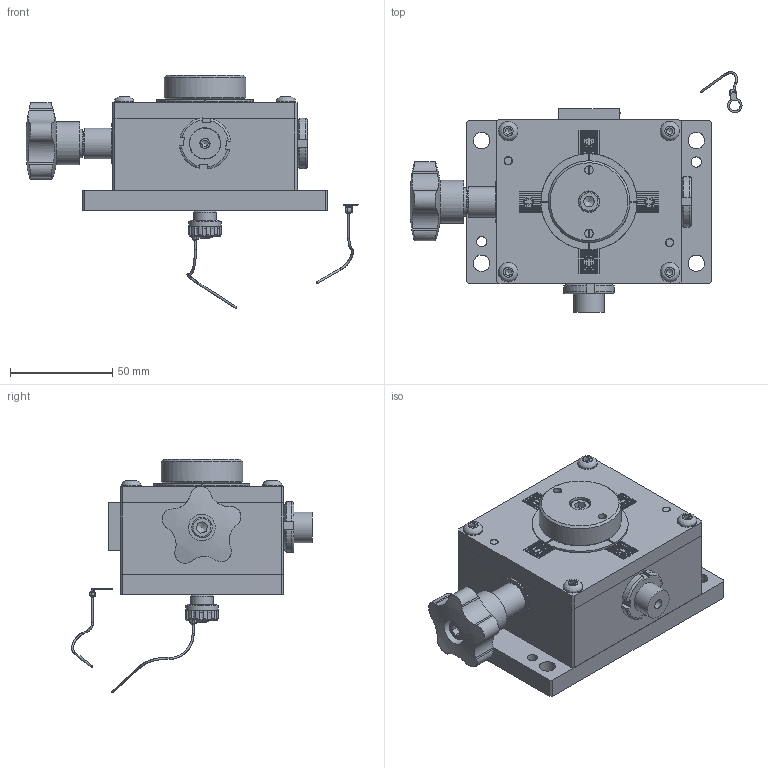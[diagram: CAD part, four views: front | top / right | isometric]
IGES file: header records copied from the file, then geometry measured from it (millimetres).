
Global section: file name: 146.00-SX-Y; native system: Autodesk Inventor 2019; preprocessor: unknown; author: AP; date: 20200220.145507; units: millimetre
Bounding box: 162.33 x 117.72 x 114.1 mm (x, y, z)
Volume: 394138.9 mm3; surface area: 134255.5 mm2
Topology: 44 solids, 44 shells, 1062 faces, 2750 edges, 1873 vertices
Faces by surface type: bspline 1062
